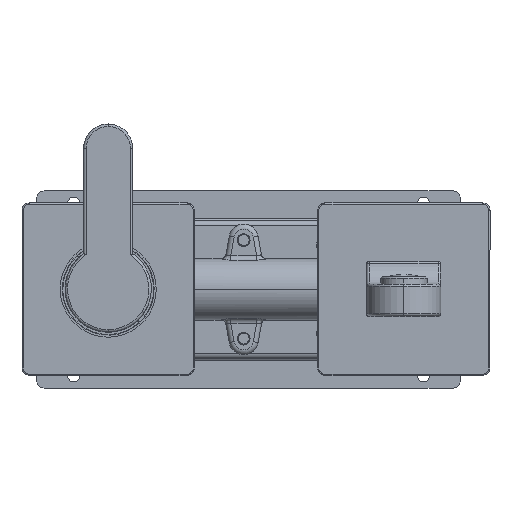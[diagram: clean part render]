
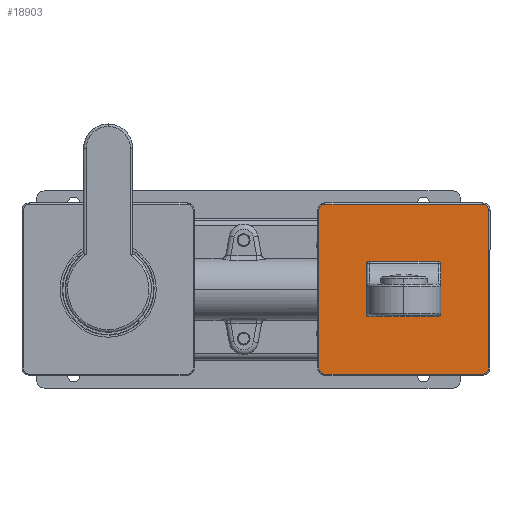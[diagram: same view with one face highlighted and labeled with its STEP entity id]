
A CAD part, top view. The second image highlights one B-rep face of the part: STEP entity #18903.
In plain terms, the highlighted planar face has unit normal (0, 0, 1) as drawn and (0, 0, -1) by its records, which use the part's own axes.
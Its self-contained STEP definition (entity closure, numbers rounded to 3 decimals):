
#157 = CARTESIAN_POINT ( 'NONE',  ( -32., -32., 0. ) ) ;
#685 = AXIS2_PLACEMENT_3D ( 'NONE', #35043, #18311, #17954 ) ;
#860 = DIRECTION ( 'NONE',  ( 0., 0., 1. ) ) ;
#1034 = VERTEX_POINT ( 'NONE', #13498 ) ;
#1094 = ORIENTED_EDGE ( 'NONE', *, *, #4340, .T. ) ;
#1238 = ORIENTED_EDGE ( 'NONE', *, *, #23417, .T. ) ;
#2087 = DIRECTION ( 'NONE',  ( 1., 0., 0. ) ) ;
#2171 = ORIENTED_EDGE ( 'NONE', *, *, #36502, .T. ) ;
#2232 = DIRECTION ( 'NONE',  ( 1., 0., 0. ) ) ;
#2375 = DIRECTION ( 'NONE',  ( 1., 0., 0. ) ) ;
#2528 = CARTESIAN_POINT ( 'NONE',  ( -35., 34.5, 0. ) ) ;
#2577 = EDGE_CURVE ( 'NONE', #15553, #31438, #28251, .T. ) ;
#2602 = CIRCLE ( 'NONE', #7500, 2.5 ) ;
#2761 = CARTESIAN_POINT ( 'NONE',  ( -32., 32., 0. ) ) ;
#2962 = DIRECTION ( 'NONE',  ( 0., 0., -1. ) ) ;
#3029 = AXIS2_PLACEMENT_3D ( 'NONE', #15124, #4013, #24315 ) ;
#3411 = CARTESIAN_POINT ( 'NONE',  ( 32., 34.5, 0. ) ) ;
#3588 = DIRECTION ( 'NONE',  ( 0., -1., 0. ) ) ;
#3997 = VERTEX_POINT ( 'NONE', #36845 ) ;
#4013 = DIRECTION ( 'NONE',  ( 0., 0., 1. ) ) ;
#4340 = EDGE_CURVE ( 'NONE', #27764, #21927, #24364, .T. ) ;
#4706 = EDGE_LOOP ( 'NONE', ( #1238, #21235 ) ) ;
#5037 = AXIS2_PLACEMENT_3D ( 'NONE', #13103, #860, #9829 ) ;
#5453 = CARTESIAN_POINT ( 'NONE',  ( 7.75, 0., 0. ) ) ;
#5673 = LINE ( 'NONE', #29092, #22183 ) ;
#5859 = CARTESIAN_POINT ( 'NONE',  ( 32., -32., 0. ) ) ;
#6193 = VECTOR ( 'NONE', #3588, 1000. ) ;
#6284 = LINE ( 'NONE', #17981, #11793 ) ;
#6942 = AXIS2_PLACEMENT_3D ( 'NONE', #27144, #2962, #14641 ) ;
#7067 = CARTESIAN_POINT ( 'NONE',  ( -32., 34.5, 0. ) ) ;
#7500 = AXIS2_PLACEMENT_3D ( 'NONE', #157, #17576, #22432 ) ;
#8414 = EDGE_LOOP ( 'NONE', ( #1094, #22040 ) ) ;
#8598 = ORIENTED_EDGE ( 'NONE', *, *, #30336, .T. ) ;
#8971 = EDGE_LOOP ( 'NONE', ( #9900, #21571, #10539, #27018, #2171, #8598, #28399, #28113 ) ) ;
#9332 = CIRCLE ( 'NONE', #5037, 7.75 ) ;
#9461 = CARTESIAN_POINT ( 'NONE',  ( -12., 0., 0. ) ) ;
#9738 = DIRECTION ( 'NONE',  ( 1., 0., 0. ) ) ;
#9829 = DIRECTION ( 'NONE',  ( 1., 0., 0. ) ) ;
#9859 = VERTEX_POINT ( 'NONE', #12795 ) ;
#9900 = ORIENTED_EDGE ( 'NONE', *, *, #30412, .T. ) ;
#10539 = ORIENTED_EDGE ( 'NONE', *, *, #2577, .T. ) ;
#10911 = VERTEX_POINT ( 'NONE', #14788 ) ;
#11557 = AXIS2_PLACEMENT_3D ( 'NONE', #9461, #23640, #15588 ) ;
#11781 = EDGE_CURVE ( 'NONE', #31438, #35574, #17957, .T. ) ;
#11793 = VECTOR ( 'NONE', #13520, 1000. ) ;
#12629 = FACE_BOUND ( 'NONE', #22405, .T. ) ;
#12795 = CARTESIAN_POINT ( 'NONE',  ( 10.25, 0., 0. ) ) ;
#13005 = CARTESIAN_POINT ( 'NONE',  ( -35., 35., 0. ) ) ;
#13103 = CARTESIAN_POINT ( 'NONE',  ( 0., 0., 0. ) ) ;
#13363 = FACE_BOUND ( 'NONE', #8414, .T. ) ;
#13498 = CARTESIAN_POINT ( 'NONE',  ( -13.75, 0., 0. ) ) ;
#13520 = DIRECTION ( 'NONE',  ( -1., 0., 0. ) ) ;
#13785 = ORIENTED_EDGE ( 'NONE', *, *, #26849, .T. ) ;
#14641 = DIRECTION ( 'NONE',  ( 1., 0., 0. ) ) ;
#14788 = CARTESIAN_POINT ( 'NONE',  ( -34.5, 32., 0. ) ) ;
#14858 = CARTESIAN_POINT ( 'NONE',  ( -10.25, 0., 0. ) ) ;
#14983 = EDGE_CURVE ( 'NONE', #21927, #27764, #9332, .T. ) ;
#15061 = VERTEX_POINT ( 'NONE', #16725 ) ;
#15124 = CARTESIAN_POINT ( 'NONE',  ( 0., 0., 0. ) ) ;
#15468 = AXIS2_PLACEMENT_3D ( 'NONE', #25811, #28894, #25611 ) ;
#15513 = PLANE ( 'NONE',  #22298 ) ;
#15553 = VERTEX_POINT ( 'NONE', #7067 ) ;
#15588 = DIRECTION ( 'NONE',  ( 1., 0., 0. ) ) ;
#16565 = EDGE_CURVE ( 'NONE', #9859, #22171, #27090, .T. ) ;
#16725 = CARTESIAN_POINT ( 'NONE',  ( 34.5, -32., 0. ) ) ;
#16761 = DIRECTION ( 'NONE',  ( 0., 0., -1. ) ) ;
#17158 = DIRECTION ( 'NONE',  ( 0., 0., -1. ) ) ;
#17303 = CARTESIAN_POINT ( 'NONE',  ( -34.5, -32., 0. ) ) ;
#17576 = DIRECTION ( 'NONE',  ( 0., 0., -1. ) ) ;
#17954 = DIRECTION ( 'NONE',  ( 1., 0., 0. ) ) ;
#17957 = CIRCLE ( 'NONE', #6942, 2.5 ) ;
#17981 = CARTESIAN_POINT ( 'NONE',  ( -35., -34.5, 0. ) ) ;
#18148 = LINE ( 'NONE', #18328, #6193 ) ;
#18311 = DIRECTION ( 'NONE',  ( 0., 0., 1. ) ) ;
#18328 = CARTESIAN_POINT ( 'NONE',  ( 34.5, 35., 0. ) ) ;
#18535 = CIRCLE ( 'NONE', #27731, 2.5 ) ;
#18857 = VECTOR ( 'NONE', #37652, 1000. ) ;
#18903 = ADVANCED_FACE ( 'NONE', ( #30110, #21438, #12629, #13363 ), #15513, .F. ) ;
#19514 = VERTEX_POINT ( 'NONE', #14858 ) ;
#21235 = ORIENTED_EDGE ( 'NONE', *, *, #16565, .T. ) ;
#21438 = FACE_BOUND ( 'NONE', #4706, .T. ) ;
#21571 = ORIENTED_EDGE ( 'NONE', *, *, #26678, .T. ) ;
#21927 = VERTEX_POINT ( 'NONE', #25667 ) ;
#21987 = CIRCLE ( 'NONE', #11557, 1.75 ) ;
#22040 = ORIENTED_EDGE ( 'NONE', *, *, #14983, .T. ) ;
#22171 = VERTEX_POINT ( 'NONE', #30293 ) ;
#22183 = VECTOR ( 'NONE', #37897, 1000. ) ;
#22298 = AXIS2_PLACEMENT_3D ( 'NONE', #13005, #36440, #9738 ) ;
#22405 = EDGE_LOOP ( 'NONE', ( #13785, #26446 ) ) ;
#22432 = DIRECTION ( 'NONE',  ( 1., 0., 0. ) ) ;
#23417 = EDGE_CURVE ( 'NONE', #22171, #9859, #24529, .T. ) ;
#23640 = DIRECTION ( 'NONE',  ( 0., 0., 1. ) ) ;
#24315 = DIRECTION ( 'NONE',  ( 1., 0., 0. ) ) ;
#24364 = CIRCLE ( 'NONE', #3029, 7.75 ) ;
#24529 = CIRCLE ( 'NONE', #685, 1.75 ) ;
#25044 = AXIS2_PLACEMENT_3D ( 'NONE', #2761, #16761, #2375 ) ;
#25611 = DIRECTION ( 'NONE',  ( 1., 0., 0. ) ) ;
#25667 = CARTESIAN_POINT ( 'NONE',  ( -7.75, 0., 0. ) ) ;
#25811 = CARTESIAN_POINT ( 'NONE',  ( -12., 0., 0. ) ) ;
#26446 = ORIENTED_EDGE ( 'NONE', *, *, #30290, .T. ) ;
#26678 = EDGE_CURVE ( 'NONE', #10911, #15553, #27529, .T. ) ;
#26849 = EDGE_CURVE ( 'NONE', #19514, #1034, #21987, .T. ) ;
#27018 = ORIENTED_EDGE ( 'NONE', *, *, #11781, .T. ) ;
#27090 = CIRCLE ( 'NONE', #30167, 1.75 ) ;
#27144 = CARTESIAN_POINT ( 'NONE',  ( 32., 32., 0. ) ) ;
#27529 = CIRCLE ( 'NONE', #25044, 2.5 ) ;
#27731 = AXIS2_PLACEMENT_3D ( 'NONE', #5859, #17158, #2232 ) ;
#27764 = VERTEX_POINT ( 'NONE', #5453 ) ;
#28113 = ORIENTED_EDGE ( 'NONE', *, *, #32776, .T. ) ;
#28158 = CARTESIAN_POINT ( 'NONE',  ( 12., 0., 0. ) ) ;
#28251 = LINE ( 'NONE', #2528, #18857 ) ;
#28366 = DIRECTION ( 'NONE',  ( 0., 0., 1. ) ) ;
#28399 = ORIENTED_EDGE ( 'NONE', *, *, #33082, .T. ) ;
#28894 = DIRECTION ( 'NONE',  ( 0., 0., 1. ) ) ;
#29092 = CARTESIAN_POINT ( 'NONE',  ( -34.5, 35., 0. ) ) ;
#30110 = FACE_OUTER_BOUND ( 'NONE', #8971, .T. ) ;
#30167 = AXIS2_PLACEMENT_3D ( 'NONE', #28158, #28366, #2087 ) ;
#30290 = EDGE_CURVE ( 'NONE', #1034, #19514, #37533, .T. ) ;
#30293 = CARTESIAN_POINT ( 'NONE',  ( 13.75, 0., 0. ) ) ;
#30336 = EDGE_CURVE ( 'NONE', #15061, #3997, #18535, .T. ) ;
#30412 = EDGE_CURVE ( 'NONE', #36627, #10911, #5673, .T. ) ;
#31438 = VERTEX_POINT ( 'NONE', #3411 ) ;
#32776 = EDGE_CURVE ( 'NONE', #34996, #36627, #2602, .T. ) ;
#33082 = EDGE_CURVE ( 'NONE', #3997, #34996, #6284, .T. ) ;
#34596 = CARTESIAN_POINT ( 'NONE',  ( 34.5, 32., 0. ) ) ;
#34996 = VERTEX_POINT ( 'NONE', #36870 ) ;
#35043 = CARTESIAN_POINT ( 'NONE',  ( 12., 0., 0. ) ) ;
#35574 = VERTEX_POINT ( 'NONE', #34596 ) ;
#36440 = DIRECTION ( 'NONE',  ( 0., 0., 1. ) ) ;
#36502 = EDGE_CURVE ( 'NONE', #35574, #15061, #18148, .T. ) ;
#36627 = VERTEX_POINT ( 'NONE', #17303 ) ;
#36845 = CARTESIAN_POINT ( 'NONE',  ( 32., -34.5, 0. ) ) ;
#36870 = CARTESIAN_POINT ( 'NONE',  ( -32., -34.5, 0. ) ) ;
#37533 = CIRCLE ( 'NONE', #15468, 1.75 ) ;
#37652 = DIRECTION ( 'NONE',  ( 1., 0., 0. ) ) ;
#37897 = DIRECTION ( 'NONE',  ( 0., 1., 0. ) ) ;
